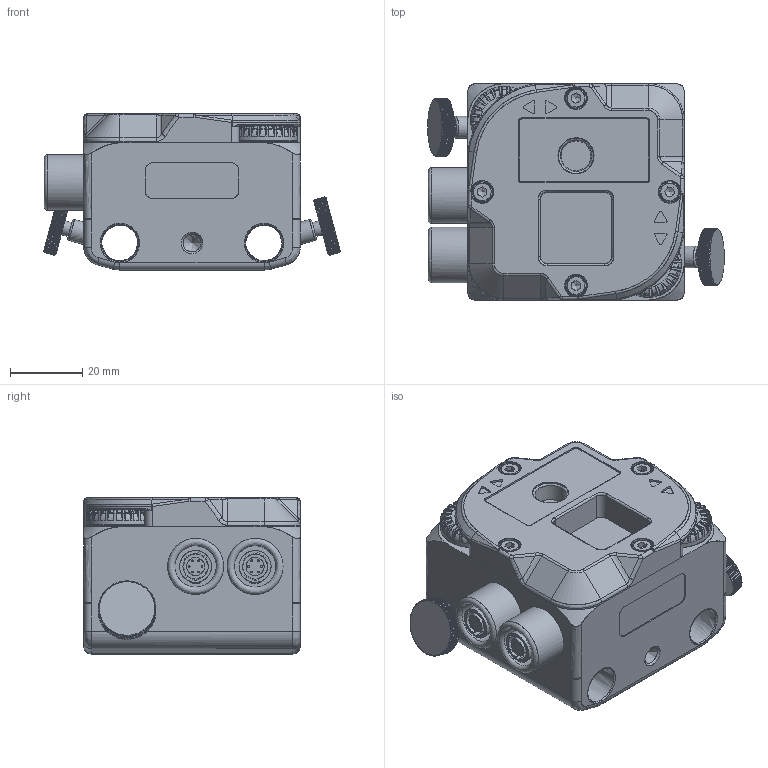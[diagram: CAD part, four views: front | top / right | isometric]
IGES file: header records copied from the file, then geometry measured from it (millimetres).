
Global section: file name: Y:\_LCPD Drawings\13.1 Lightweight Models\9936\LM-9936-0703 M UNIT\LM-9936-0703 M UNIT.igs; native system: NX V1926; preprocessor: SIEMENS PLM Software NX 1942; date: 20210222.105826; units: millimetre
Bounding box: 82.32 x 60 x 43.3 mm (x, y, z)
Surface area: 27433.8 mm2 (no closed solid volume)
Topology: 0 solids, 0 shells, 2250 faces, 12647 edges, 12345 vertices
Faces by surface type: bspline 2250
